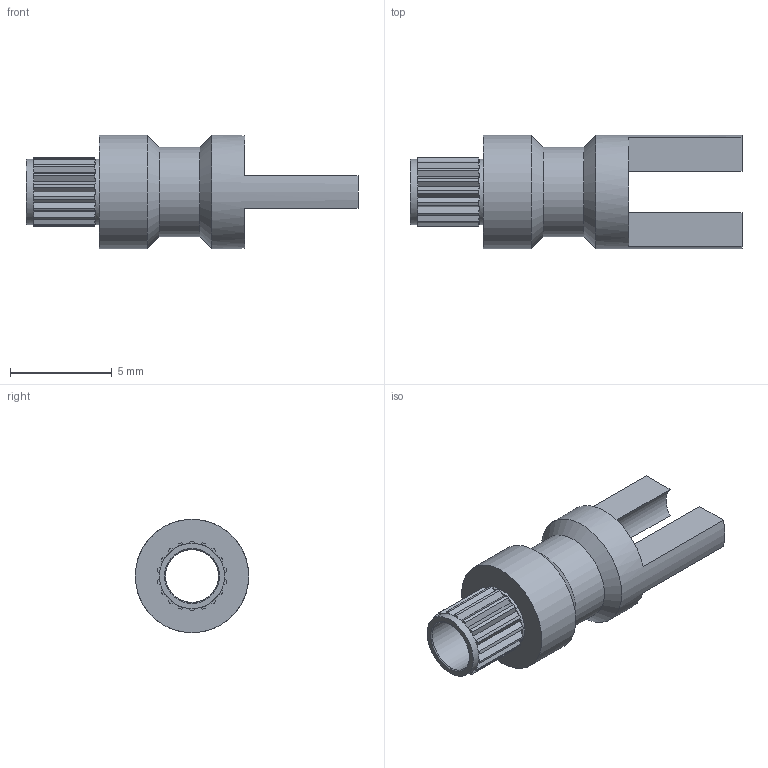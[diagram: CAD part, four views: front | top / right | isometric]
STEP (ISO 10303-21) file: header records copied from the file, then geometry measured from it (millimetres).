
FILE_DESCRIPTION(/* description */ (''),/* implementation_level */ '2;1');
FILE_NAME(/* name */ 'Z:\STEP folder\140-1783-03.ipt.stp',/* time_stamp */ '2016-12-07T10:39:20+00:00',/* author */ ('Paul Karlsons'),/* organization */ (''),/* preprocessor_version */ 'ST-DEVELOPER v15.2',/* originating_system */ 'Autodesk Inventor 2014',/* authorisation */ '');
FILE_SCHEMA (('AUTOMOTIVE_DESIGN { 1 0 10303 214 3 1 1 }'));
Length unit declared in the file: millimetre
Products named in the file (1): 140-1783-03
Bounding box: 16.28 x 5.56 x 5.56 mm (x, y, z)
Volume: 148.7 mm3; surface area: 370.4 mm2
Topology: 1 solids, 1 shells, 145 faces, 388 edges, 245 vertices
Faces by surface type: plane 118, cylinder 24, cone 3
Full cylindrical faces by diameter (mm): 2.59 x1, 3.2 x2, 4.369 x1, 5.56 x2
Entity records: 4443 total; most frequent: DIRECTION 792, CARTESIAN_POINT 762, ORIENTED_EDGE 750, EDGE_CURVE 375, AXIS2_PLACEMENT_3D 271, LINE 250, VECTOR 250, VERTEX_POINT 241
